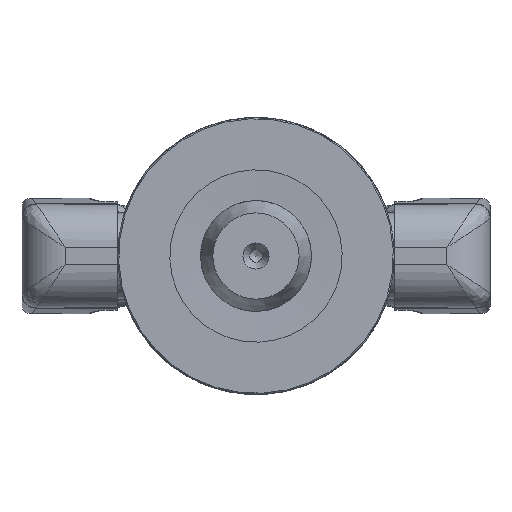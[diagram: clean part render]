
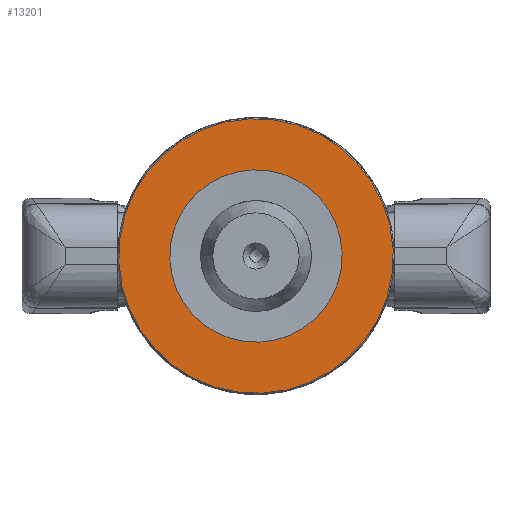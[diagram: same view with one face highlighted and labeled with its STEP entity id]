
A CAD part, front view. The second image highlights one B-rep face of the part: STEP entity #13201.
In plain terms, the highlighted planar face has unit normal (0, -1, 0) as drawn and (0, 0, -1) by its records, which use the part's own axes.
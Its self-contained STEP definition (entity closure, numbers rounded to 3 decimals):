
#272=FACE_BOUND('',#3921,.T.);
#630=CIRCLE('',#14181,22.3);
#632=CIRCLE('',#14185,14.);
#2385=PLANE('',#14184);
#3086=FACE_OUTER_BOUND('',#3920,.T.);
#3920=EDGE_LOOP('',(#11047));
#3921=EDGE_LOOP('',(#11048));
#5876=VERTEX_POINT('',#40625);
#5878=VERTEX_POINT('',#40631);
#7674=EDGE_CURVE('',#5876,#5876,#630,.T.);
#7676=EDGE_CURVE('',#5878,#5878,#632,.T.);
#11047=ORIENTED_EDGE('',*,*,#7674,.F.);
#11048=ORIENTED_EDGE('',*,*,#7676,.F.);
#13201=ADVANCED_FACE('',(#3086,#272),#2385,.F.);
#14181=AXIS2_PLACEMENT_3D('',#40626,#16327,#16328);
#14184=AXIS2_PLACEMENT_3D('',#40630,#16333,#16334);
#14185=AXIS2_PLACEMENT_3D('',#40632,#16335,#16336);
#16327=DIRECTION('center_axis',(0.,0.,1.));
#16328=DIRECTION('ref_axis',(-1.,0.,0.));
#16333=DIRECTION('center_axis',(0.,0.,1.));
#16334=DIRECTION('ref_axis',(1.,0.,0.));
#16335=DIRECTION('center_axis',(0.,0.,-1.));
#16336=DIRECTION('ref_axis',(-1.,0.,0.));
#40625=CARTESIAN_POINT('',(22.3,0.,0.));
#40626=CARTESIAN_POINT('Origin',(0.,0.,0.));
#40630=CARTESIAN_POINT('Origin',(0.,0.,0.));
#40631=CARTESIAN_POINT('',(14.,0.,0.));
#40632=CARTESIAN_POINT('Origin',(0.,0.,0.));
